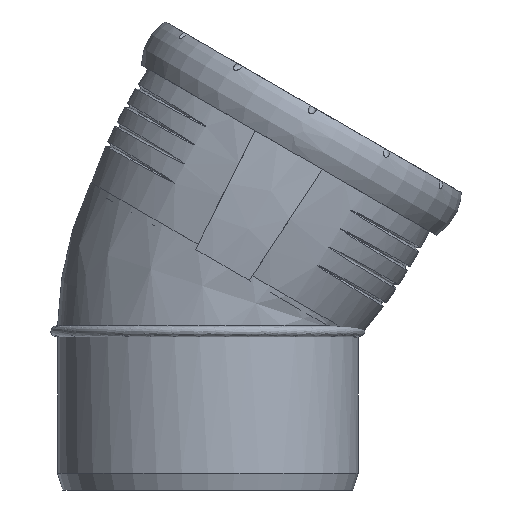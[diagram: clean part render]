
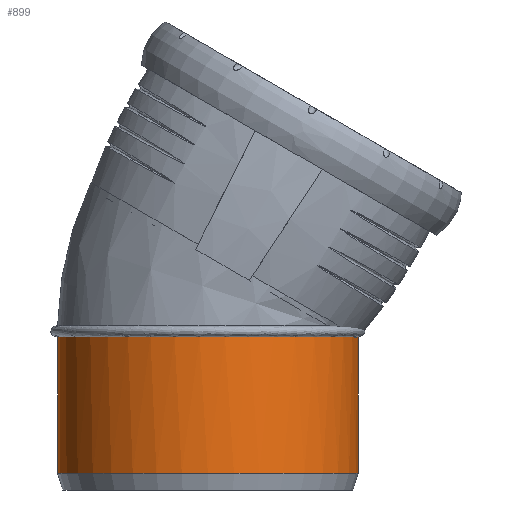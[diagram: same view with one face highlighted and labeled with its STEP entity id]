
A CAD part, front view. The second image highlights one B-rep face of the part: STEP entity #899.
In plain terms, the highlighted cylindrical face has radius 80.125 mm (diameter 160.25 mm), a full revolution.
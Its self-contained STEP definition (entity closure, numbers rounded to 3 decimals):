
#34=FACE_BOUND('',#189,.T.);
#60=CYLINDRICAL_SURFACE('',#967,80.125);
#79=CIRCLE('',#962,80.125);
#82=CIRCLE('',#968,80.125);
#83=CIRCLE('',#969,80.125);
#84=CIRCLE('',#970,80.125);
#85=CIRCLE('',#971,80.125);
#134=FACE_OUTER_BOUND('',#188,.T.);
#188=EDGE_LOOP('',(#594,#595,#596,#597));
#189=EDGE_LOOP('',(#598));
#357=VERTEX_POINT('',#1450);
#358=VERTEX_POINT('',#1485);
#360=VERTEX_POINT('',#1527);
#361=VERTEX_POINT('',#1529);
#362=VERTEX_POINT('',#1532);
#456=EDGE_CURVE('',#357,#358,#79,.T.);
#459=EDGE_CURVE('',#360,#357,#82,.T.);
#460=EDGE_CURVE('',#358,#361,#83,.T.);
#461=EDGE_CURVE('',#361,#360,#84,.T.);
#462=EDGE_CURVE('',#362,#362,#85,.T.);
#594=ORIENTED_EDGE('',*,*,#459,.T.);
#595=ORIENTED_EDGE('',*,*,#456,.T.);
#596=ORIENTED_EDGE('',*,*,#460,.T.);
#597=ORIENTED_EDGE('',*,*,#461,.T.);
#598=ORIENTED_EDGE('',*,*,#462,.F.);
#899=ADVANCED_FACE('',(#134,#34),#60,.T.);
#962=AXIS2_PLACEMENT_3D('',#1520,#1062,#1063);
#967=AXIS2_PLACEMENT_3D('',#1526,#1072,#1073);
#968=AXIS2_PLACEMENT_3D('',#1528,#1074,#1075);
#969=AXIS2_PLACEMENT_3D('',#1530,#1076,#1077);
#970=AXIS2_PLACEMENT_3D('',#1531,#1078,#1079);
#971=AXIS2_PLACEMENT_3D('',#1533,#1080,#1081);
#1062=DIRECTION('center_axis',(0.,0.,-1.));
#1063=DIRECTION('ref_axis',(1.,0.,0.));
#1072=DIRECTION('center_axis',(0.,0.,-1.));
#1073=DIRECTION('ref_axis',(0.,1.,0.));
#1074=DIRECTION('center_axis',(0.,0.,-1.));
#1075=DIRECTION('ref_axis',(1.,0.,0.));
#1076=DIRECTION('center_axis',(0.,0.,-1.));
#1077=DIRECTION('ref_axis',(1.,0.,0.));
#1078=DIRECTION('center_axis',(0.,0.,-1.));
#1079=DIRECTION('ref_axis',(1.,0.,0.));
#1080=DIRECTION('center_axis',(0.,0.,-1.));
#1081=DIRECTION('ref_axis',(1.,0.,0.));
#1450=CARTESIAN_POINT('',(79.643,8.777,81.6));
#1485=CARTESIAN_POINT('',(79.643,-8.777,81.6));
#1520=CARTESIAN_POINT('Origin',(0.,0.,81.6));
#1526=CARTESIAN_POINT('Origin',(0.,0.,45.3));
#1527=CARTESIAN_POINT('',(0.,80.125,81.6));
#1528=CARTESIAN_POINT('Origin',(0.,0.,81.6));
#1529=CARTESIAN_POINT('',(-80.125,0.,81.6));
#1530=CARTESIAN_POINT('Origin',(0.,0.,81.6));
#1531=CARTESIAN_POINT('Origin',(0.,0.,81.6));
#1532=CARTESIAN_POINT('',(0.,80.125,9.));
#1533=CARTESIAN_POINT('Origin',(0.,0.,9.));
